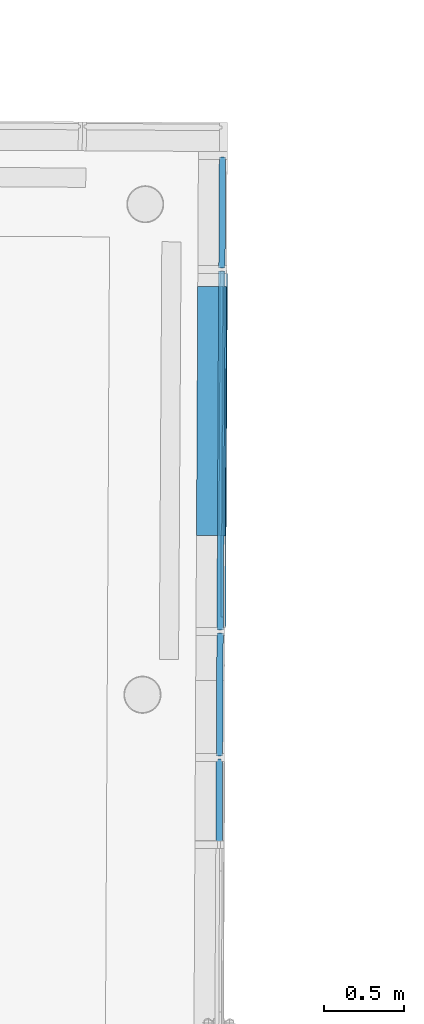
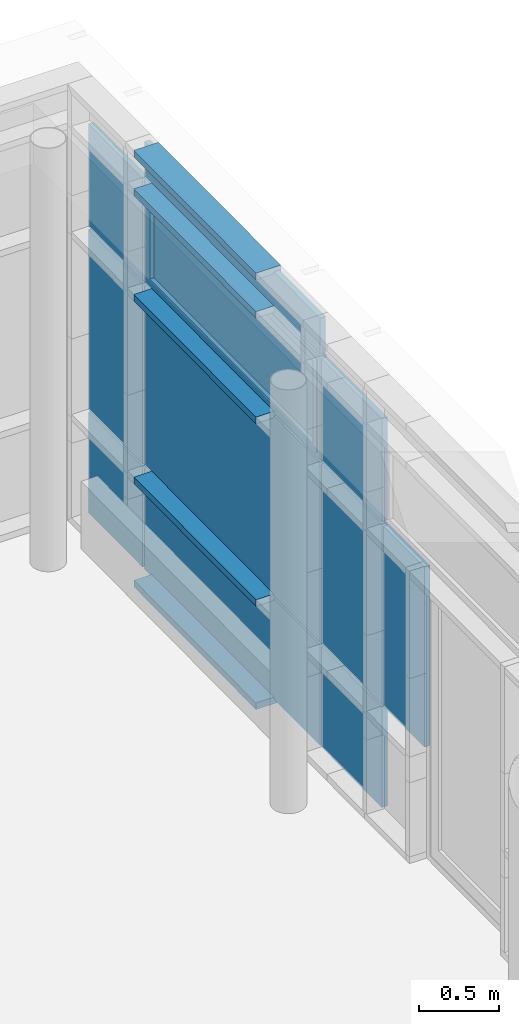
# One storey, part 145 of 196: 17 building element parts, 1 element without a shape of its own.
"""IFC2X3 building model written with IfcOpenShell, lengths in metres."""

from ifc_helpers import new_model, entity, si_unit, converted_unit, derived_unit, money_unit, direction, frame, origin_with_axes, place, context, subcontext, project, spatial, faceted_brep, material, type_object, element, aggregate, save


model = new_model("IFC2X3")

# Units and contexts
model_context = context("Model", 3, precision=1e-05, world=origin_with_axes(), true_north=direction((0.0, 1.0)))
body_context = subcontext(model_context, "Body", "Model", "MODEL_VIEW")
ifc_project = project(units=[si_unit("LENGTHUNIT", "METRE"), si_unit("AREAUNIT", "SQUARE_METRE"), si_unit("VOLUMEUNIT", "CUBIC_METRE"), converted_unit("PLANEANGLEUNIT", "DEGREE", entity("IfcPlaneAngleMeasure", 0.0174532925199), si_unit("PLANEANGLEUNIT", "RADIAN"), dimensions=[0, 0, 0, 0, 0, 0, 0]), money_unit("EUR"), converted_unit("TIMEUNIT", "Year", entity("IfcTimeMeasure", 31556926.0), si_unit("TIMEUNIT", "SECOND"), dimensions=[0, 0, 1, 0, 0, 0, 0]), si_unit("MASSUNIT", "GRAM", prefix="KILO"), si_unit("THERMODYNAMICTEMPERATUREUNIT", "DEGREE_CELSIUS"), si_unit("LUMINOUSINTENSITYUNIT", "LUMEN"), si_unit("ENERGYUNIT", "JOULE", prefix="MEGA"), derived_unit("THERMALCONDUCTANCEUNIT", [(si_unit("POWERUNIT", "WATT"), 1), (si_unit("LENGTHUNIT", "METRE"), -1), (si_unit("THERMODYNAMICTEMPERATUREUNIT", "KELVIN"), -1)]), derived_unit("SPECIFICHEATCAPACITYUNIT", [(si_unit("ENERGYUNIT", "JOULE"), 1), (si_unit("MASSUNIT", "GRAM", prefix="KILO"), -1), (si_unit("THERMODYNAMICTEMPERATUREUNIT", "KELVIN"), -1)]), derived_unit("MASSDENSITYUNIT", [(si_unit("MASSUNIT", "GRAM", prefix="KILO"), 1), (si_unit("VOLUMEUNIT", "CUBIC_METRE"), -1)])], contexts=[model_context])

# Site, building, storey
site_placement = place(None, origin_with_axes())
site = spatial("IfcSite", under=ifc_project, at=site_placement, Name="Gelände", CompositionType="ELEMENT")
building_placement = place(site_placement, origin_with_axes())
building = spatial("IfcBuilding", under=site, at=building_placement, Name="Gebäude", CompositionType="ELEMENT")
storey_placement = place(building_placement, frame((0.0, 0.0, -3.0), z_axis=(0.0, 0.0, 1.0), x_axis=(1.0, 0.0, 0.0)))
storey = spatial("IfcBuildingStorey", under=building, at=storey_placement, Name="KELLERGESCHOSS", CompositionType="ELEMENT", Elevation=-3.0)

# Proxy, building element parts
building_element_proxy_type = type_object("IfcBuildingElementProxyType", Name="Fassadentyp", PredefinedType="NOTDEFINED")
proxy_placement = place(storey_placement, frame((9.16160365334, 37.7476945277, 0.610000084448), z_axis=(0.0, 0.0, 1.0), x_axis=(1.0, 0.0, 0.0)))
proxy = element("IfcBuildingElementProxy", 1, at=proxy_placement, inside=storey, type_object=building_element_proxy_type, Name="Fassade-002")
ifc_material_1 = material(Name="45_Glas, Normalglas")
building_element_part_1_placement = place(proxy_placement, origin_with_axes())
building_element_part_1 = element("IfcBuildingElementPart", 2, at=building_element_part_1_placement, material=ifc_material_1, Name="45_Glas, Normalglas", context=body_context, shape_type="Brep", body=[
    faceted_brep([(0.0165666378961, 7.21357864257, 2.20916309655), (0.0160825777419, 7.11808773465, 2.20916309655), (0.056082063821, 7.11788497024, 2.20916309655), (0.0565661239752, 7.21337587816, 2.20916309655), (0.0165666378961, 7.21357864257, 1.41999992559), (0.0165666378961, 7.21357864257, 0.827169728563), (0.0160825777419, 7.11808773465, 0.827169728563), (0.00822545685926, 5.56810763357, 0.827169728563), (0.0052572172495, 4.98256079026, 0.827169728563), (0.0052572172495, 4.98256079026, 1.41999992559), (0.0052572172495, 4.98256079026, 2.20916309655), (0.00822545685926, 5.56810763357, 2.20916309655), (0.0482249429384, 5.56790486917, 2.20916309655), (0.0452567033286, 4.98235802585, 2.20916309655), (0.0452567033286, 4.98235802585, 1.41999992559), (0.0452567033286, 4.98235802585, 0.827169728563), (0.0482249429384, 5.56790486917, 0.827169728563), (0.056082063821, 7.11788497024, 0.827169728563), (0.0565661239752, 7.21337587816, 0.827169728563), (0.0565661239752, 7.21337587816, 1.41999992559)], [[[0, 1, 2, 3]], [[0, 4, 5, 6, 7, 8, 9, 10, 11, 1]], [[1, 11, 12, 2]], [[3, 2, 12, 13, 14, 15, 16, 17, 18, 19]], [[4, 0, 3, 19]], [[5, 4, 19, 18]], [[6, 5, 18, 17]], [[7, 6, 17, 16]], [[8, 7, 16, 15]], [[9, 8, 15, 14]], [[10, 9, 14, 13]], [[11, 10, 13, 12]]]),
])
building_element_part_2_placement = place(proxy_placement, origin_with_axes())
building_element_part_2 = element("IfcBuildingElementPart", 3, at=building_element_part_2_placement, material=ifc_material_1, Name="45_Glas, Normalglas", context=body_context, shape_type="Brep", body=[
    faceted_brep([(0.0165666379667, 7.21357865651, 0.807169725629), (0.0160825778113, 7.11808774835, 0.807169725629), (0.0560820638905, 7.11788498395, 0.807169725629), (0.0565661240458, 7.2133758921, 0.807169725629), (0.0165666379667, 7.21357865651, 0.619999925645), (0.0165666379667, 7.21357865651, 0.034999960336), (0.0160825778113, 7.11808774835, 0.034999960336), (0.0082254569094, 5.56810764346, 0.034999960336), (0.00525721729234, 4.98256079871, 0.0349998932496), (0.00525721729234, 4.98256079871, 0.619999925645), (0.00525721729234, 4.98256079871, 0.807169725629), (0.0082254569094, 5.56810764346, 0.807169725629), (0.0482249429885, 5.56790487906, 0.807169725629), (0.0452567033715, 4.9823580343, 0.807169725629), (0.0452567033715, 4.9823580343, 0.619999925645), (0.0452567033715, 4.9823580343, 0.0349998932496), (0.0482249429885, 5.56790487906, 0.034999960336), (0.0560820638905, 7.11788498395, 0.034999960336), (0.0565661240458, 7.2133758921, 0.034999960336), (0.0565661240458, 7.2133758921, 0.619999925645)], [[[0, 1, 2, 3]], [[0, 4, 5, 6, 7, 8, 9, 10, 11, 1]], [[1, 11, 12, 2]], [[3, 2, 12, 13, 14, 15, 16, 17, 18, 19]], [[4, 0, 3, 19]], [[5, 4, 19, 18]], [[6, 5, 18, 17]], [[7, 6, 17, 16]], [[8, 7, 16, 15]], [[9, 8, 15, 14]], [[10, 9, 14, 13]], [[11, 10, 13, 12]]]),
])
building_element_part_3_placement = place(proxy_placement, origin_with_axes())
building_element_part_3 = element("IfcBuildingElementPart", 4, at=building_element_part_3_placement, material=ifc_material_1, Name="45_Glas, Normalglas", context=body_context, shape_type="Brep", body=[
    faceted_brep([(0.0201625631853, 7.92294950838, 3.01949642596), (0.016668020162, 7.23357839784, 3.01949642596), (0.0566675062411, 7.23337563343, 3.01949642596), (0.0601620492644, 7.92274674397, 3.01949642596), (0.0201625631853, 7.92294950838, 2.51999991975), (0.0201625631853, 7.92294950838, 2.22916310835), (0.016668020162, 7.23357839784, 2.22916310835), (0.016668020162, 7.23357839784, 2.51999991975), (0.0566675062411, 7.23337563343, 2.51999991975), (0.0566675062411, 7.23337563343, 2.22916310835), (0.0601620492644, 7.92274674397, 2.22916310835), (0.0601620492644, 7.92274674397, 2.51999991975)], [[[0, 1, 2, 3]], [[0, 4, 5, 6, 7, 1]], [[1, 7, 8, 2]], [[3, 2, 8, 9, 10, 11]], [[4, 0, 3, 11]], [[5, 4, 11, 10]], [[6, 5, 10, 9]], [[7, 6, 9, 8]]]),
])
building_element_part_4_placement = place(proxy_placement, origin_with_axes())
building_element_part_4 = element("IfcBuildingElementPart", 5, at=building_element_part_4_placement, material=ifc_material_1, Name="45_Glas, Normalglas", context=body_context, shape_type="Brep", body=[
    faceted_brep([(0.00118177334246, 4.1785949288, 2.20916310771), (-0.00140585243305, 3.66813206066, 2.20916310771), (0.0385936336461, 3.66792929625, 2.20916310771), (0.0411812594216, 4.17839216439, 2.20916310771), (0.00118177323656, 4.17859490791, 1.41999992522), (0.00118177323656, 4.17859490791, 0.827169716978), (-0.00140585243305, 3.66813206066, 0.827169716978), (-0.00145727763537, 3.65798737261, 0.827169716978), (-0.00145727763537, 3.65798737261, 1.41999992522), (-0.00145727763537, 3.65798737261, 2.20916310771), (0.0385422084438, 3.6577846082, 2.20916310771), (0.0385422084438, 3.6577846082, 1.41999992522), (0.0385422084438, 3.6577846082, 0.827169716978), (0.0385936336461, 3.66792929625, 0.827169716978), (0.0411812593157, 4.1783921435, 0.827169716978), (0.0411812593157, 4.1783921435, 1.41999992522)], [[[0, 1, 2, 3]], [[0, 4, 5, 6, 7, 8, 9, 1]], [[1, 9, 10, 2]], [[3, 2, 10, 11, 12, 13, 14, 15]], [[4, 0, 3, 15]], [[5, 4, 15, 14]], [[6, 5, 14, 13]], [[7, 6, 13, 12]], [[8, 7, 12, 11]], [[9, 8, 11, 10]]]),
])
building_element_part_5_placement = place(proxy_placement, origin_with_axes())
building_element_part_5 = element("IfcBuildingElementPart", 6, at=building_element_part_5_placement, material=ifc_material_1, Name="45_Glas, Normalglas", context=body_context, shape_type="Brep", body=[
    faceted_brep([(0.0201625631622, 7.92294950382, 0.807169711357), (0.0166680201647, 7.23357839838, 0.807169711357), (0.0566675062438, 7.23337563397, 0.807169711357), (0.0601620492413, 7.92274673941, 0.807169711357), (0.0201625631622, 7.92294950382, 0.619999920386), (0.0201625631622, 7.92294950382, 0.034999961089), (0.0166680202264, 7.23357841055, 0.034999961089), (0.0166680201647, 7.23357839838, 0.619999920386), (0.0566675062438, 7.23337563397, 0.619999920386), (0.0566675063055, 7.23337564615, 0.034999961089), (0.0601620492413, 7.92274673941, 0.034999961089), (0.0601620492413, 7.92274673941, 0.619999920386)], [[[0, 1, 2, 3]], [[0, 4, 5, 6, 7, 1]], [[1, 7, 8, 2]], [[3, 2, 8, 9, 10, 11]], [[4, 0, 3, 11]], [[5, 4, 11, 10]], [[6, 5, 10, 9]], [[7, 6, 9, 8]]]),
])
building_element_part_6_placement = place(proxy_placement, origin_with_axes())
building_element_part_6 = element("IfcBuildingElementPart", 7, at=building_element_part_6_placement, material=ifc_material_1, Name="45_Glas, Normalglas", context=body_context, shape_type="Brep", body=[
    faceted_brep([(0.00515583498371, 4.96256103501, 2.20916310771), (0.00366325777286, 4.66811921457, 2.20916310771), (0.043662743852, 4.66791645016, 2.20916310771), (0.0451553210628, 4.96235827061, 2.20916310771), (0.00515583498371, 4.96256103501, 1.41999992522), (0.00515583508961, 4.96256105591, 0.827169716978), (0.00366325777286, 4.66811921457, 0.827169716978), (0.00128315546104, 4.198594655, 0.827169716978), (0.00128315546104, 4.198594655, 1.41999992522), (0.00128315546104, 4.198594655, 2.20916310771), (0.0412826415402, 4.1983918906, 2.20916310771), (0.0412826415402, 4.1983918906, 1.41999992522), (0.0412826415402, 4.1983918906, 0.827169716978), (0.043662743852, 4.66791645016, 0.827169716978), (0.0451553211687, 4.9623582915, 0.827169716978), (0.0451553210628, 4.96235827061, 1.41999992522)], [[[0, 1, 2, 3]], [[0, 4, 5, 6, 7, 8, 9, 1]], [[1, 9, 10, 2]], [[3, 2, 10, 11, 12, 13, 14, 15]], [[4, 0, 3, 15]], [[5, 4, 15, 14]], [[6, 5, 14, 13]], [[7, 6, 13, 12]], [[8, 7, 12, 11]], [[9, 8, 11, 10]]]),
])
building_element_part_7_placement = place(proxy_placement, origin_with_axes())
building_element_part_7 = element("IfcBuildingElementPart", 8, at=building_element_part_7_placement, material=ifc_material_1, Name="45_Glas, Normalglas", context=body_context, shape_type="Brep", body=[
    faceted_brep([(0.00515583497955, 4.9625610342, 3.01949642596), (0.00366325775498, 4.66811921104, 3.01949642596), (0.0436627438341, 4.66791644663, 3.01949642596), (0.0451553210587, 4.96235826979, 3.01949642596), (0.00515583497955, 4.9625610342, 2.51999991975), (0.00515583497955, 4.9625610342, 2.22916310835), (0.00366325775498, 4.66811921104, 2.22916310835), (0.00128315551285, 4.19859466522, 2.22916310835), (0.00128315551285, 4.19859466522, 2.51999991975), (0.00128315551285, 4.19859466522, 3.01949642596), (0.041282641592, 4.19839190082, 3.01949642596), (0.041282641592, 4.19839190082, 2.51999991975), (0.041282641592, 4.19839190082, 2.22916310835), (0.0436627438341, 4.66791644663, 2.22916310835), (0.0451553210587, 4.96235826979, 2.22916310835), (0.0451553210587, 4.96235826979, 2.51999991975)], [[[0, 1, 2, 3]], [[0, 4, 5, 6, 7, 8, 9, 1]], [[1, 9, 10, 2]], [[3, 2, 10, 11, 12, 13, 14, 15]], [[4, 0, 3, 15]], [[5, 4, 15, 14]], [[6, 5, 14, 13]], [[7, 6, 13, 12]], [[8, 7, 12, 11]], [[9, 8, 11, 10]]]),
])
building_element_part_8_placement = place(proxy_placement, origin_with_axes())
building_element_part_8 = element("IfcBuildingElementPart", 9, at=building_element_part_8_placement, material=ifc_material_1, Name="45_Glas, Normalglas", context=body_context, shape_type="Brep", body=[
    faceted_brep([(0.0201625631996, 7.9229495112, 2.20916310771), (0.0166680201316, 7.23357839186, 2.20916310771), (0.0566675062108, 7.23337562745, 2.20916310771), (0.0601620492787, 7.92274674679, 2.20916310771), (0.0201625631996, 7.9229495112, 1.41999992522), (0.0201625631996, 7.9229495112, 0.827169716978), (0.0166680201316, 7.23357839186, 0.827169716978), (0.0166680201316, 7.23357839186, 1.41999992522), (0.0566675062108, 7.23337562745, 1.41999992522), (0.0566675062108, 7.23337562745, 0.827169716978), (0.0601620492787, 7.92274674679, 0.827169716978), (0.0601620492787, 7.92274674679, 1.41999992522)], [[[0, 1, 2, 3]], [[0, 4, 5, 6, 7, 1]], [[1, 7, 8, 2]], [[3, 2, 8, 9, 10, 11]], [[4, 0, 3, 11]], [[5, 4, 11, 10]], [[6, 5, 10, 9]], [[7, 6, 9, 8]]]),
])
building_element_part_9_placement = place(proxy_placement, origin_with_axes())
building_element_part_9 = element("IfcBuildingElementPart", 10, at=building_element_part_9_placement, material=ifc_material_1, Name="45_Glas, Normalglas", context=body_context, shape_type="Brep", body=[
    faceted_brep([(0.0165666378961, 7.21357864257, 3.31499994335), (0.0160825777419, 7.11808773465, 3.31499994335), (0.056082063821, 7.11788497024, 3.31499994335), (0.0565661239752, 7.21337587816, 3.31499994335), (0.0165666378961, 7.21357864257, 3.03949643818), (0.0160825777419, 7.11808773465, 3.03949643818), (0.00822545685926, 5.56810763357, 3.03949643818), (0.0052572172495, 4.98256079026, 3.03949643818), (0.0052572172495, 4.98256079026, 3.31499994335), (0.00822545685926, 5.56810763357, 3.31499994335), (0.0482249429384, 5.56790486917, 3.31499994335), (0.0452567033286, 4.98235802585, 3.31499994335), (0.0452567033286, 4.98235802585, 3.03949643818), (0.0482249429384, 5.56790486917, 3.03949643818), (0.056082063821, 7.11788497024, 3.03949643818), (0.0565661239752, 7.21337587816, 3.03949643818)], [[[0, 1, 2, 3]], [[0, 4, 5, 6, 7, 8, 9, 1]], [[1, 9, 10, 2]], [[3, 2, 10, 11, 12, 13, 14, 15]], [[4, 0, 3, 15]], [[5, 4, 15, 14]], [[6, 5, 14, 13]], [[7, 6, 13, 12]], [[8, 7, 12, 11]], [[9, 8, 11, 10]]]),
])
ifc_material_2 = material(Name="53_Metall, Aluminium")
building_element_part_10_placement = place(proxy_placement, origin_with_axes())
building_element_part_10 = element("IfcBuildingElementPart", 11, at=building_element_part_10_placement, material=ifc_material_2, Name="53_Metall, Aluminium", context=body_context, shape_type="Brep", body=[
    faceted_brep([(0.055332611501, 4.99730714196, 2.24416311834), (0.0664899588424, 7.19832537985, 2.24416311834), (0.0714898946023, 7.1983000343, 2.24416311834), (0.0603325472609, 4.99728179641, 2.24416311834), (0.0555607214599, 5.0423065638, 2.28916311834), (0.0662618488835, 7.15332595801, 2.28916311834), (0.0712617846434, 7.15330061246, 2.28916311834), (0.0605606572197, 5.04228121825, 2.28916311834)], [[[0, 1, 2, 3]], [[0, 4, 5, 1]], [[1, 5, 6, 2]], [[3, 2, 6, 7]], [[4, 0, 3, 7]], [[5, 4, 7, 6]]]),
    faceted_brep([(0.0664899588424, 7.19832537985, 2.24416311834), (0.0664899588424, 7.19832537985, 3.00449641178), (0.0714898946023, 7.1983000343, 3.00449641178), (0.0714898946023, 7.1983000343, 2.24416311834), (0.0662618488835, 7.15332595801, 2.28916311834), (0.0662618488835, 7.15332595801, 2.95949641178), (0.0712617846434, 7.15330061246, 2.95949641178), (0.0712617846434, 7.15330061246, 2.28916311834)], [[[0, 1, 2, 3]], [[0, 4, 5, 1]], [[1, 5, 6, 2]], [[3, 2, 6, 7]], [[4, 0, 3, 7]], [[5, 4, 7, 6]]]),
    faceted_brep([(0.055332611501, 4.99730714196, 3.00449641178), (0.0555607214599, 5.0423065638, 2.95949641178), (0.0605606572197, 5.04228121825, 2.95949641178), (0.0603325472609, 4.99728179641, 3.00449641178), (0.0664899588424, 7.19832537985, 3.00449641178), (0.0662618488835, 7.15332595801, 2.95949641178), (0.0712617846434, 7.15330061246, 2.95949641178), (0.0714898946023, 7.1983000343, 3.00449641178)], [[[0, 1, 2, 3]], [[0, 4, 5, 1]], [[1, 5, 6, 2]], [[3, 2, 6, 7]], [[4, 0, 3, 7]], [[5, 4, 7, 6]]]),
    faceted_brep([(0.055332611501, 4.99730714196, 2.24416311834), (0.0555607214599, 5.0423065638, 2.28916311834), (0.0605606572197, 5.04228121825, 2.28916311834), (0.0603325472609, 4.99728179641, 2.24416311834), (0.055332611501, 4.99730714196, 3.00449641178), (0.0555607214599, 5.0423065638, 2.95949641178), (0.0605606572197, 5.04228121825, 2.95949641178), (0.0603325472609, 4.99728179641, 3.00449641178)], [[[0, 1, 2, 3]], [[0, 4, 5, 1]], [[1, 5, 6, 2]], [[3, 2, 6, 7]], [[4, 0, 3, 7]], [[5, 4, 7, 6]]]),
    faceted_brep([(0.00533325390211, 4.99756059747, 2.24416311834), (0.0164906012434, 7.19857883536, 2.24416311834), (0.0664899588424, 7.19832537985, 2.24416311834), (0.055332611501, 4.99730714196, 2.24416311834), (0.00543463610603, 5.01756034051, 2.26416311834), (0.0163892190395, 7.17857909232, 2.26416311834), (0.0663885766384, 7.17832563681, 2.26416311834), (0.055433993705, 5.017306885, 2.26416311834)], [[[0, 1, 2, 3]], [[0, 4, 5, 1]], [[1, 5, 6, 2]], [[3, 2, 6, 7]], [[4, 0, 3, 7]], [[5, 4, 7, 6]]]),
    faceted_brep([(0.0164906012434, 7.19857883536, 2.24416311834), (0.0164906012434, 7.19857883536, 3.00449641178), (0.0664899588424, 7.19832537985, 3.00449641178), (0.0664899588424, 7.19832537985, 2.24416311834), (0.0163892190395, 7.17857909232, 2.26416311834), (0.0163892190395, 7.17857909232, 2.98449641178), (0.0663885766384, 7.17832563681, 2.98449641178), (0.0663885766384, 7.17832563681, 2.26416311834)], [[[0, 1, 2, 3]], [[0, 4, 5, 1]], [[1, 5, 6, 2]], [[3, 2, 6, 7]], [[4, 0, 3, 7]], [[5, 4, 7, 6]]]),
    faceted_brep([(0.00533325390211, 4.99756059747, 3.00449641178), (0.00543463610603, 5.01756034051, 2.98449641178), (0.055433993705, 5.017306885, 2.98449641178), (0.055332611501, 4.99730714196, 3.00449641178), (0.0164906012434, 7.19857883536, 3.00449641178), (0.0163892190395, 7.17857909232, 2.98449641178), (0.0663885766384, 7.17832563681, 2.98449641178), (0.0664899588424, 7.19832537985, 3.00449641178)], [[[0, 1, 2, 3]], [[0, 4, 5, 1]], [[1, 5, 6, 2]], [[3, 2, 6, 7]], [[4, 0, 3, 7]], [[5, 4, 7, 6]]]),
    faceted_brep([(0.00533325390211, 4.99756059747, 2.24416311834), (0.00543463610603, 5.01756034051, 2.26416311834), (0.055433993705, 5.017306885, 2.26416311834), (0.055332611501, 4.99730714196, 2.24416311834), (0.00533325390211, 4.99756059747, 3.00449641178), (0.00543463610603, 5.01756034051, 2.98449641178), (0.055433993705, 5.017306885, 2.98449641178), (0.055332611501, 4.99730714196, 3.00449641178)], [[[0, 1, 2, 3]], [[0, 4, 5, 1]], [[1, 5, 6, 2]], [[3, 2, 6, 7]], [[4, 0, 3, 7]], [[5, 4, 7, 6]]]),
    faceted_brep([(0.0052572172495, 4.98256079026, 2.2291631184), (0.0165666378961, 7.21357864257, 2.2291631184), (0.0565661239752, 7.21337587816, 2.2291631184), (0.0452567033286, 4.98235802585, 2.2291631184), (0.00533325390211, 4.99756059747, 2.24416311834), (0.0164906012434, 7.19857883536, 2.24416311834), (0.0564900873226, 7.19837607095, 2.24416311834), (0.0453327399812, 4.99735783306, 2.24416311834)], [[[0, 1, 2, 3]], [[0, 4, 5, 1]], [[1, 5, 6, 2]], [[3, 2, 6, 7]], [[4, 0, 3, 7]], [[5, 4, 7, 6]]]),
    faceted_brep([(0.0165666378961, 7.21357864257, 2.2291631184), (0.0165666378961, 7.21357864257, 3.01949641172), (0.0565661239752, 7.21337587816, 3.01949641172), (0.0565661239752, 7.21337587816, 2.2291631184), (0.0164906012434, 7.19857883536, 2.24416311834), (0.0164906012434, 7.19857883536, 3.00449641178), (0.0564900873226, 7.19837607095, 3.00449641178), (0.0564900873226, 7.19837607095, 2.24416311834)], [[[0, 1, 2, 3]], [[0, 4, 5, 1]], [[1, 5, 6, 2]], [[3, 2, 6, 7]], [[4, 0, 3, 7]], [[5, 4, 7, 6]]]),
    faceted_brep([(0.0165666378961, 7.21357864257, 3.01949641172), (0.0052572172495, 4.98256079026, 3.01949641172), (0.0452567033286, 4.98235802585, 3.01949641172), (0.0565661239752, 7.21337587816, 3.01949641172), (0.0164906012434, 7.19857883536, 3.00449641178), (0.00533325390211, 4.99756059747, 3.00449641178), (0.0453327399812, 4.99735783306, 3.00449641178), (0.0564900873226, 7.19837607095, 3.00449641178)], [[[0, 1, 2, 3]], [[0, 4, 5, 1]], [[1, 5, 6, 2]], [[3, 2, 6, 7]], [[4, 0, 3, 7]], [[5, 4, 7, 6]]]),
    faceted_brep([(0.0052572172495, 4.98256079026, 3.01949641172), (0.0052572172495, 4.98256079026, 2.2291631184), (0.0452567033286, 4.98235802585, 2.2291631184), (0.0452567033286, 4.98235802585, 3.01949641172), (0.00533325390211, 4.99756059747, 3.00449641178), (0.00533325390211, 4.99756059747, 2.24416311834), (0.0453327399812, 4.99735783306, 2.24416311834), (0.0453327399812, 4.99735783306, 3.00449641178)], [[[0, 1, 2, 3]], [[0, 4, 5, 1]], [[1, 5, 6, 2]], [[3, 2, 6, 7]], [[4, 0, 3, 7]], [[5, 4, 7, 6]]]),
    faceted_brep([(0.0556621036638, 5.06230630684, 2.30916311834), (0.000662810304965, 5.0625851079, 2.30916311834), (0.000662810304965, 5.0625851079, 2.93949641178), (0.0556621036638, 5.06230630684, 2.93949641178), (0.055433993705, 5.017306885, 2.26416311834), (0.000434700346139, 5.01758568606, 2.26416311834), (0.000434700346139, 5.01758568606, 2.98449641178), (0.055433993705, 5.017306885, 2.98449641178)], [[[0, 1, 2, 3]], [[4, 5, 1, 0]], [[1, 5, 6, 2]], [[3, 2, 6, 7]], [[0, 3, 7, 4]], [[7, 6, 5, 4]]]),
    faceted_brep([(0.0663885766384, 7.17832563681, 2.26416311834), (0.0113892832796, 7.17860443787, 2.26416311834), (0.0113892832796, 7.17860443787, 2.98449641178), (0.0663885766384, 7.17832563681, 2.98449641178), (0.0661604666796, 7.13332621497, 2.30916311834), (0.0111611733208, 7.13360501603, 2.30916311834), (0.0111611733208, 7.13360501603, 2.93949641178), (0.0661604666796, 7.13332621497, 2.93949641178)], [[[0, 1, 2, 3]], [[4, 5, 1, 0]], [[1, 5, 6, 2]], [[3, 2, 6, 7]], [[0, 3, 7, 4]], [[7, 6, 5, 4]]]),
    faceted_brep([(0.0663885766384, 7.17832563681, 2.26416311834), (0.0113892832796, 7.17860443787, 2.26416311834), (0.0111611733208, 7.13360501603, 2.30916311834), (0.0661604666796, 7.13332621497, 2.30916311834), (0.055433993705, 5.017306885, 2.26416311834), (0.000434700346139, 5.01758568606, 2.26416311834), (0.000662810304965, 5.0625851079, 2.30916311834), (0.0556621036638, 5.06230630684, 2.30916311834)], [[[0, 1, 2, 3]], [[4, 5, 1, 0]], [[1, 5, 6, 2]], [[3, 2, 6, 7]], [[0, 3, 7, 4]], [[7, 6, 5, 4]]]),
    faceted_brep([(0.055433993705, 5.017306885, 2.98449641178), (0.000434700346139, 5.01758568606, 2.98449641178), (0.000662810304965, 5.0625851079, 2.93949641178), (0.0556621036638, 5.06230630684, 2.93949641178), (0.0663885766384, 7.17832563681, 2.98449641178), (0.0113892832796, 7.17860443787, 2.98449641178), (0.0111611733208, 7.13360501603, 2.93949641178), (0.0661604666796, 7.13332621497, 2.93949641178)], [[[0, 1, 2, 3]], [[4, 5, 1, 0]], [[1, 5, 6, 2]], [[3, 2, 6, 7]], [[0, 3, 7, 4]], [[7, 6, 5, 4]]]),
])
building_element_part_11_placement = place(proxy_placement, origin_with_axes())
building_element_part_11 = element("IfcBuildingElementPart", 12, at=building_element_part_11_placement, material=ifc_material_1, Name="45_Glas, Normalglas", context=body_context, shape_type="Brep", body=[
    faceted_brep([(0.045662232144, 5.06235699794, 2.30916311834), (0.0296624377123, 5.06243810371, 2.30916311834), (0.0401608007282, 7.13345801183, 2.30916311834), (0.0561605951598, 7.13337690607, 2.30916311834), (0.045662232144, 5.06235699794, 2.93949641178), (0.0296624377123, 5.06243810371, 2.93949641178), (0.0401608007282, 7.13345801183, 2.93949641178), (0.0561605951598, 7.13337690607, 2.93949641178)], [[[0, 1, 2, 3]], [[4, 5, 1, 0]], [[1, 5, 6, 2]], [[3, 2, 6, 7]], [[0, 3, 7, 4]], [[7, 6, 5, 4]]]),
])
building_element_part_12_placement = place(proxy_placement, origin_with_axes())
building_element_part_12 = element("IfcBuildingElementPart", 13, at=building_element_part_12_placement, material=ifc_material_1, Name="45_Glas, Normalglas", context=body_context, shape_type="Brep", body=[
    faceted_brep([(0.00515583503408, 4.96256104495, 0.807169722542), (0.00366325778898, 4.66811921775, 0.807169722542), (0.0436627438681, 4.66791645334, 0.807169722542), (0.0451553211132, 4.96235828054, 0.807169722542), (0.00515583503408, 4.96256104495, 0.619999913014), (0.00515583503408, 4.96256104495, 0.0349999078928), (0.00366325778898, 4.66811921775, 0.0349998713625), (0.00128315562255, 4.19859468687, 0.0349998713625), (0.0012831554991, 4.19859466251, 0.619999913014), (0.00128315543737, 4.19859465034, 0.807169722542), (0.0412826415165, 4.19839188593, 0.807169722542), (0.0412826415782, 4.1983918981, 0.619999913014), (0.0412826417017, 4.19839192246, 0.0349998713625), (0.0436627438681, 4.66791645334, 0.0349998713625), (0.0451553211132, 4.96235828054, 0.0349999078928), (0.0451553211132, 4.96235828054, 0.619999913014)], [[[0, 1, 2, 3]], [[0, 4, 5, 6, 7, 8, 9, 1]], [[1, 9, 10, 2]], [[3, 2, 10, 11, 12, 13, 14, 15]], [[4, 0, 3, 15]], [[5, 4, 15, 14]], [[6, 5, 14, 13]], [[7, 6, 13, 12]], [[8, 7, 12, 11]], [[9, 8, 11, 10]]]),
])
building_element_part_13_placement = place(proxy_placement, origin_with_axes())
building_element_part_13 = element("IfcBuildingElementPart", 14, at=building_element_part_13_placement, material=ifc_material_2, Name="53_Metall, Aluminium", context=body_context, shape_type="Brep", body=[
    faceted_brep([(0.0260824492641, 7.11803704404, 3.31499994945), (0.0260824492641, 7.11803704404, 3.29999994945), (-0.113915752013, 7.11874671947, 3.29999994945), (-0.113915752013, 7.11874671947, 3.34999994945), (0.0660819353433, 7.11783427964, 3.34999994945), (0.0660819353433, 7.11783427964, 3.29999994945), (0.0460821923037, 7.11793566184, 3.29999994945), (0.0460821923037, 7.11793566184, 3.31499994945), (0.0182253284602, 5.56805695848, 3.31499994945), (0.0182253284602, 5.56805695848, 3.29999994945), (-0.121772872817, 5.5687666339, 3.29999994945), (-0.121772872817, 5.5687666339, 3.34999994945), (0.0582248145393, 5.56785419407, 3.34999994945), (0.0582248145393, 5.56785419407, 3.29999994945), (0.0382250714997, 5.56795557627, 3.29999994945), (0.0382250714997, 5.56795557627, 3.31499994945)], [[[0, 1, 2, 3, 4, 5, 6, 7]], [[0, 8, 9, 1]], [[9, 10, 2, 1]], [[10, 11, 3, 2]], [[11, 12, 4, 3]], [[12, 13, 5, 4]], [[6, 5, 13, 14]], [[14, 15, 7, 6]], [[7, 15, 8, 0]], [[8, 15, 14, 13, 12, 11, 10, 9]]]),
])
building_element_part_14_placement = place(proxy_placement, origin_with_axes())
building_element_part_14 = element("IfcBuildingElementPart", 15, at=building_element_part_14_placement, material=ifc_material_2, Name="53_Metall, Aluminium", context=body_context, shape_type="Brep", body=[
    faceted_brep([(0.0260824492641, 7.11803704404, 0.0349999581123), (0.0460821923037, 7.11793566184, 0.0349999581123), (0.0460821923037, 7.11793566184, 0.0499999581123), (0.0660819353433, 7.11783427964, 0.0499999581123), (0.0660819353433, 7.11783427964, -4.18876591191e-08), (-0.113915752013, 7.11874671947, -4.18876591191e-08), (-0.113915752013, 7.11874671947, 0.0499999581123), (0.0260824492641, 7.11803704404, 0.0499999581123), (0.0182253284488, 5.56805695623, 0.0349999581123), (0.0382250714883, 5.56795557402, 0.0349999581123), (0.0382250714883, 5.56795557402, 0.0499999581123), (0.0582248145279, 5.56785419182, 0.0499999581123), (0.0582248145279, 5.56785419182, -4.18876591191e-08), (-0.121772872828, 5.56876663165, -4.18876591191e-08), (-0.121772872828, 5.56876663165, 0.0499999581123), (0.0182253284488, 5.56805695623, 0.0499999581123)], [[[0, 1, 2, 3, 4, 5, 6, 7]], [[1, 0, 8, 9]], [[10, 2, 1, 9]], [[2, 10, 11, 3]], [[12, 4, 3, 11]], [[13, 5, 4, 12]], [[14, 6, 5, 13]], [[15, 7, 6, 14]], [[0, 7, 15, 8]], [[8, 15, 14, 13, 12, 11, 10, 9]]]),
])
building_element_part_15_placement = place(proxy_placement, origin_with_axes())
building_element_part_15 = element("IfcBuildingElementPart", 16, at=building_element_part_15_placement, material=ifc_material_2, Name="53_Metall, Aluminium", context=body_context, shape_type="Brep", body=[
    faceted_brep([(0.0260824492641, 7.11803704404, 0.807169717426), (0.0260824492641, 7.11803704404, 0.792169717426), (-0.113915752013, 7.11874671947, 0.792169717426), (-0.113915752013, 7.11874671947, 0.842169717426), (0.0260824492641, 7.11803704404, 0.842169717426), (0.0260824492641, 7.11803704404, 0.827169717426), (0.0460821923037, 7.11793566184, 0.827169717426), (0.0460821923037, 7.11793566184, 0.842169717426), (0.0660819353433, 7.11783427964, 0.842169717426), (0.0660819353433, 7.11783427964, 0.792169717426), (0.0460821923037, 7.11793566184, 0.792169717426), (0.0460821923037, 7.11793566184, 0.807169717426), (0.0182253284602, 5.56805695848, 0.807169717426), (0.0182253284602, 5.56805695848, 0.792169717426), (-0.121772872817, 5.5687666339, 0.792169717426), (-0.121772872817, 5.5687666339, 0.842169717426), (0.0182253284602, 5.56805695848, 0.842169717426), (0.0182253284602, 5.56805695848, 0.827169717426), (0.0382250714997, 5.56795557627, 0.827169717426), (0.0382250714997, 5.56795557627, 0.842169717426), (0.0582248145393, 5.56785419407, 0.842169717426), (0.0582248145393, 5.56785419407, 0.792169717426), (0.0382250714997, 5.56795557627, 0.792169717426), (0.0382250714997, 5.56795557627, 0.807169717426)], [[[0, 1, 2, 3, 4, 5, 6, 7, 8, 9, 10, 11]], [[1, 0, 12, 13]], [[1, 13, 14, 2]], [[3, 2, 14, 15]], [[4, 3, 15, 16]], [[4, 16, 17, 5]], [[5, 17, 18, 6]], [[7, 6, 18, 19]], [[19, 20, 8, 7]], [[9, 8, 20, 21]], [[22, 10, 9, 21]], [[11, 10, 22, 23]], [[0, 11, 23, 12]], [[23, 22, 21, 20, 19, 18, 17, 16, 15, 14, 13, 12]]]),
])
building_element_part_16_placement = place(proxy_placement, origin_with_axes())
building_element_part_16 = element("IfcBuildingElementPart", 17, at=building_element_part_16_placement, material=ifc_material_2, Name="53_Metall, Aluminium", context=body_context, shape_type="Brep", body=[
    faceted_brep([(0.0260824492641, 7.11803704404, 3.01949642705), (0.0260824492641, 7.11803704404, 3.00449642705), (-0.113915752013, 7.11874671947, 3.00449642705), (-0.113915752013, 7.11874671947, 3.05449642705), (0.0260824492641, 7.11803704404, 3.05449642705), (0.0260824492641, 7.11803704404, 3.03949642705), (0.0460821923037, 7.11793566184, 3.03949642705), (0.0460821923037, 7.11793566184, 3.05449642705), (0.0660819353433, 7.11783427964, 3.05449642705), (0.0660819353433, 7.11783427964, 3.00449642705), (0.0460821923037, 7.11793566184, 3.00449642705), (0.0460821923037, 7.11793566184, 3.01949642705), (0.0182253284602, 5.56805695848, 3.01949642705), (0.0182253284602, 5.56805695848, 3.00449642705), (-0.121772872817, 5.5687666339, 3.00449642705), (-0.121772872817, 5.5687666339, 3.05449642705), (0.0182253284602, 5.56805695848, 3.05449642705), (0.0182253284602, 5.56805695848, 3.03949642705), (0.0382250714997, 5.56795557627, 3.03949642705), (0.0382250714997, 5.56795557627, 3.05449642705), (0.0582248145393, 5.56785419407, 3.05449642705), (0.0582248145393, 5.56785419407, 3.00449642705), (0.0382250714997, 5.56795557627, 3.00449642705), (0.0382250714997, 5.56795557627, 3.01949642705)], [[[0, 1, 2, 3, 4, 5, 6, 7, 8, 9, 10, 11]], [[1, 0, 12, 13]], [[1, 13, 14, 2]], [[3, 2, 14, 15]], [[4, 3, 15, 16]], [[4, 16, 17, 5]], [[5, 17, 18, 6]], [[7, 6, 18, 19]], [[19, 20, 8, 7]], [[9, 8, 20, 21]], [[22, 10, 9, 21]], [[11, 10, 22, 23]], [[0, 11, 23, 12]], [[23, 22, 21, 20, 19, 18, 17, 16, 15, 14, 13, 12]]]),
])
building_element_part_17_placement = place(proxy_placement, origin_with_axes())
building_element_part_17 = element("IfcBuildingElementPart", 18, at=building_element_part_17_placement, material=ifc_material_2, Name="53_Metall, Aluminium", context=body_context, shape_type="Brep", body=[
    faceted_brep([(0.0260824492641, 7.11803704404, 2.20916310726), (0.0260824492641, 7.11803704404, 2.19416310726), (-0.113915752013, 7.11874671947, 2.19416310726), (-0.113915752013, 7.11874671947, 2.24416310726), (0.0260824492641, 7.11803704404, 2.24416310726), (0.0260824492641, 7.11803704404, 2.22916310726), (0.0460821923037, 7.11793566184, 2.22916310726), (0.0460821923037, 7.11793566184, 2.24416310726), (0.0660819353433, 7.11783427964, 2.24416310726), (0.0660819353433, 7.11783427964, 2.19416310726), (0.0460821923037, 7.11793566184, 2.19416310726), (0.0460821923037, 7.11793566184, 2.20916310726), (0.0182253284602, 5.56805695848, 2.20916310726), (0.0182253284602, 5.56805695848, 2.19416310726), (-0.121772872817, 5.5687666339, 2.19416310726), (-0.121772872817, 5.5687666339, 2.24416310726), (0.0182253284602, 5.56805695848, 2.24416310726), (0.0182253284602, 5.56805695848, 2.22916310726), (0.0382250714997, 5.56795557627, 2.22916310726), (0.0382250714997, 5.56795557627, 2.24416310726), (0.0582248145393, 5.56785419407, 2.24416310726), (0.0582248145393, 5.56785419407, 2.19416310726), (0.0382250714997, 5.56795557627, 2.19416310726), (0.0382250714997, 5.56795557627, 2.20916310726)], [[[0, 1, 2, 3, 4, 5, 6, 7, 8, 9, 10, 11]], [[1, 0, 12, 13]], [[1, 13, 14, 2]], [[3, 2, 14, 15]], [[4, 3, 15, 16]], [[4, 16, 17, 5]], [[5, 17, 18, 6]], [[7, 6, 18, 19]], [[19, 20, 8, 7]], [[9, 8, 20, 21]], [[22, 10, 9, 21]], [[11, 10, 22, 23]], [[0, 11, 23, 12]], [[23, 22, 21, 20, 19, 18, 17, 16, 15, 14, 13, 12]]]),
])
aggregate(proxy, [building_element_part_1, building_element_part_2, building_element_part_3, building_element_part_4, building_element_part_5, building_element_part_6, building_element_part_7, building_element_part_8, building_element_part_9, building_element_part_10, building_element_part_11, building_element_part_12, building_element_part_13, building_element_part_14, building_element_part_15, building_element_part_16, building_element_part_17])

save(model, "model.ifc")
